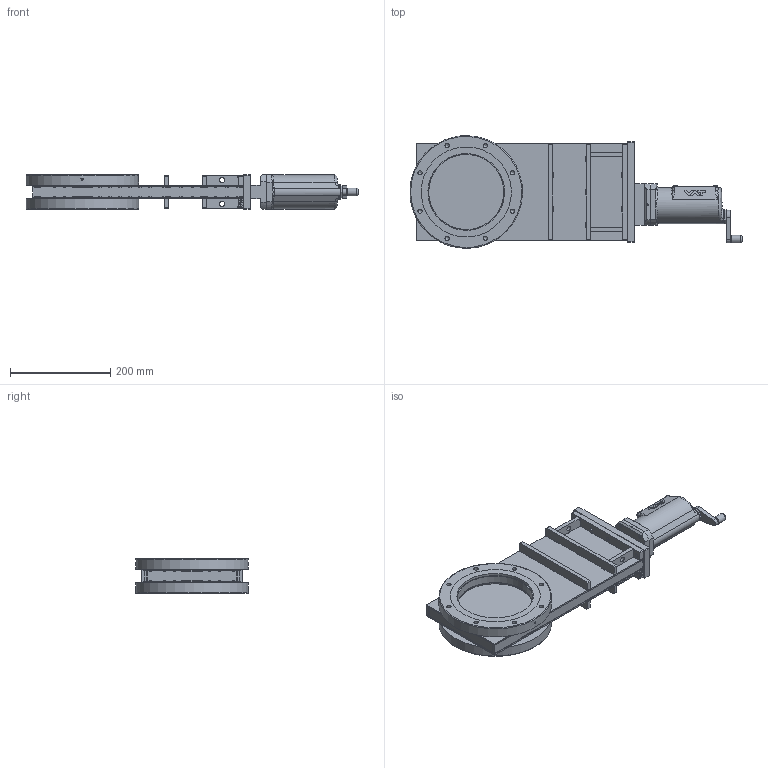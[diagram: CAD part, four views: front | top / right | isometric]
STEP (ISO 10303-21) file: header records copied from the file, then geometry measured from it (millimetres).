
FILE_DESCRIPTION(/* description */ (''),/* implementation_level */ '2;1');
FILE_NAME(/* name */ '1823214183_203.stp',/* time_stamp */ '2022-07-13T14:25:51+02:00',/* author */ (''),/* organization */ (''),/* preprocessor_version */ 'ST-DEVELOPER v18.1',/* originating_system */ 'SIEMENS PLM Software NX 1973',/* authorisation */ '');
FILE_SCHEMA (('AP203_CONFIGURATION_CONTROLLED_3D_DESIGN_OF_MECHANICAL_PARTS_AND_ASSEMBLIES_MIM_LF { 1 0 10303 403 2 1 2}'));
Length unit declared in the file: millimetre
Products named in the file (32): 804858_34908ID; 804850_34928ID; 804857_34926ID; 804857_34925ID; 804844_34924ID; 804853_34923ID; 804858_34922ID; 804844_34921ID; 804857_34919ID; 804858_34918ID; 804853_34917ID; 804845_34915ID; 804845_34914ID; 804857_34912ID; 804858_34909ID; 82480-R1_1.2; 78964-01_01.1; 79149-01.1; 79148-01.1; n-6099-492.1; 23550-01.1_34852ID; 23550-01.1; 395868; n-6024-538.1; 348352.1; 916524; 501138; 218198.1; 82482-r1.2; 804898_MODEL; 23443-r1.1_MODEL; 1081925
Assembly tree (40 placements, depth 4):
  1081925
    218198.1  x6
    23443-r1.1_MODEL
      804898_MODEL
        804858_34909ID
        804857_34912ID
        804845_34914ID
        804845_34915ID
        804853_34917ID
        804858_34918ID
        804857_34919ID
        804844_34921ID
        804858_34922ID
        804853_34923ID
        804844_34924ID
        804857_34925ID
        804857_34926ID
        804850_34928ID
        804858_34908ID
      23550-01.1
      23550-01.1_34852ID
      n-6099-492.1  x2
    501138
    916524
    348352.1
    n-6024-538.1  x4
    395868
    82482-r1.2
      79148-01.1
      79149-01.1
      78964-01_01.1
      82480-R1_1.2
Bounding box: 663.17 x 225 x 70 mm (x, y, z)
Volume: 2439282.3 mm3; surface area: 749068.8 mm2
Topology: 199 solids, 199 shells, 1667 faces, 3743 edges, 2537 vertices
Faces by surface type: plane 1253, cylinder 258, cone 88, bspline 32, extrusion 20, torus 12, sphere 4
Full cylindrical faces by diameter (mm): 3 x1, 3.8 x2, 4 x8, 4.3 x4, 4.35 x2, 4.5 x2, 4.625 x2, 5.2 x4, 6 x3, 6.35 x2, 6.625 x2, 6.66 x6, 6.7 x6, 6.8 x15, 7 x9, 8 x16, 8.5 x20, 8.55 x4, 9 x6, 10 x4, 13 x6, 14.1 x10, 15 x1, 20 x1, 28 x2, 60 x1, 150.1 x5, 153.1 x2, 167.25 x2, 225 x2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
Entity records: 50927 total; most frequent: CARTESIAN_POINT 13759, DIRECTION 6395, ORIENTED_EDGE 6264, EDGE_CURVE 3132, VECTOR 2297, LINE 2277, VERTEX_POINT 2270, AXIS2_PLACEMENT_3D 2049
